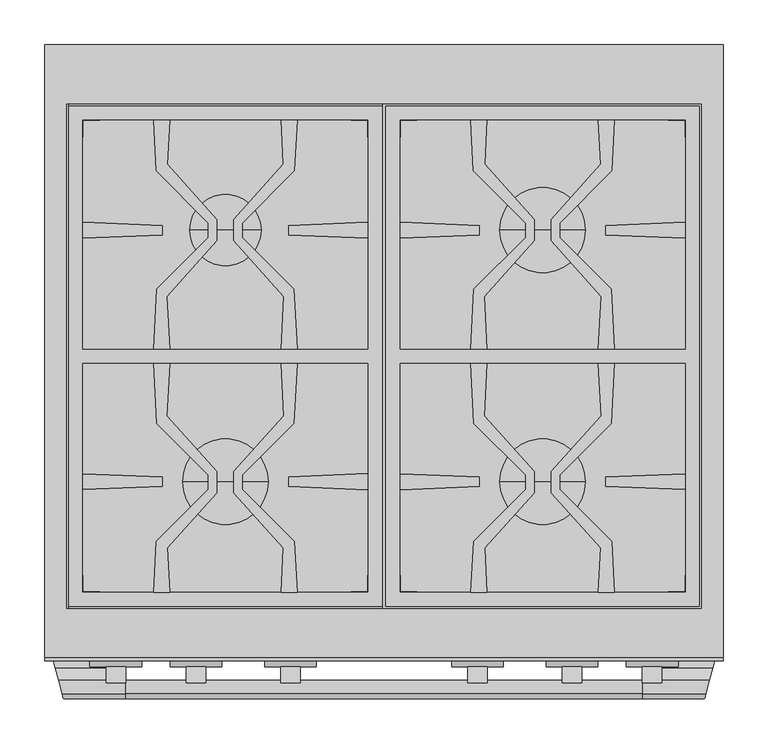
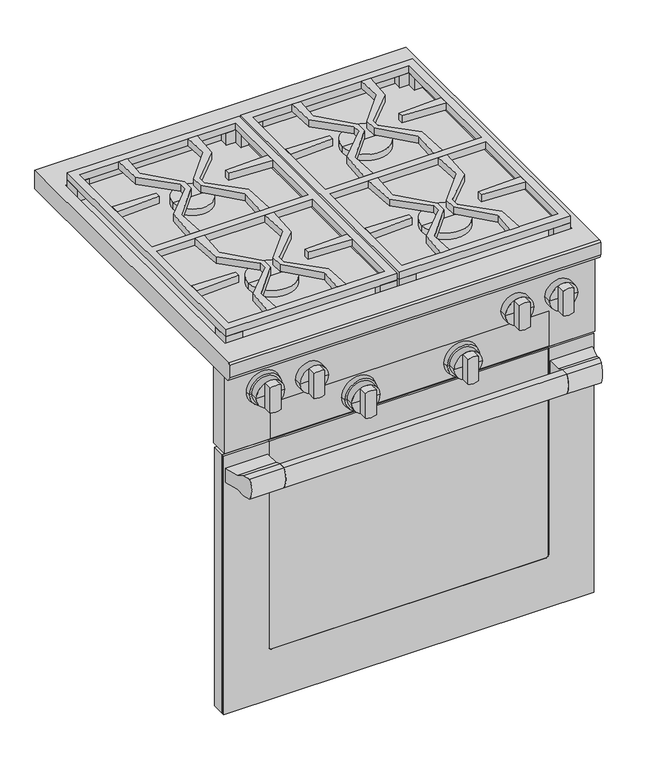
"""IFC4 building model written with IfcOpenShell, lengths in millimetres: proxy geometry, 09810020_USA_HR1124G_EDST-CLST : 25112451_USA_9810020_HR1124G_EDST-CLST."""

from ifc_helpers import new_model, si_unit, point, frame, frame_2d, origin, place, context, project, spatial, polyline, circle_curve, ellipse_curve, trimmed, segment, composite_curve, outline, extrude, faceted_brep, source, transform, mapped, element, save
from ifc_brep_helpers import plane_surface, cylinder_surface, revolved_surface, advanced_brep


def specialty_equipment_d9d770ca(model_context):
    return source(origin(), model_context, "Body", "SolidModel", [
        extrude(outline(composite_curve([segment(polyline([(-729.0, 667.0), (-714.0, 667.0), (-714.0, 624.0), (-729.0, 624.0)]), True, "CONTINUOUS"), segment(trimmed(circle_curve(frame_2d((-693.4791667, 645.5)), 41.5208333), [point((-729.0, 624.0))], [point((-729.0, 667.0))], False, "CARTESIAN"), True, "CONTINUOUS")], self_intersect=False)), frame((-290.0, 0.0, 0.0), z_axis=(1.0, 0.0, 0.0), x_axis=(0.0, 1.0, 0.0)), (0.0, 0.0, 1.0), 580.0),
        extrude(outline(polyline([(-380.0, -638.0), (380.0, -638.0), (380.0, -664.7), (-380.0, -664.7), (-380.0, -638.0)])), frame((0.0, 0.0, 127.0), z_axis=(0.0, 0.0, 1.0), x_axis=(1.0, 0.0, 0.0)), (0.0, 0.0, 1.0), 561.0),
        extrude(outline(polyline([(-379.0, -664.7), (379.0, -664.7), (379.0, -668.7), (-379.0, -668.7), (-379.0, -664.7)])), frame((0.0, 0.0, 128.0), z_axis=(0.0, 0.0, 1.0), x_axis=(1.0, 0.0, 0.0)), (0.0, 0.0, 1.0), 559.0),
        advanced_brep(
        [(287.0, -664.7, 688.0), (380.0, -664.7, 688.0), (380.0, -664.7, 127.0), (-380.0, -664.7, 127.0), (-380.0, -664.7, 688.0), (-287.0, -664.7, 688.0), (-287.0, -664.7, 687.0), (-379.0, -664.7, 687.0), (-379.0, -664.7, 128.0), (379.0, -664.7, 128.0), (379.0, -664.7, 687.0), (287.0, -664.7, 687.0), (-287.0, -670.0, 688.0), (-380.0, -670.0, 688.0), (-380.0, -670.0, 127.0), (380.0, -670.0, 127.0), (380.0, -670.0, 688.0), (287.0, -670.0, 688.0), (287.0, -670.0, 241.0), (281.0, -670.0, 235.0), (-281.0, -670.0, 235.0), (-287.0, -670.0, 241.0), (-287.0, -668.7, 241.0), (-287.0, -668.7, 687.0), (281.0, -668.7, 235.0), (-281.0, -668.7, 235.0), (287.0, -668.7, 687.0), (287.0, -668.7, 241.0), (379.0, -668.7, 687.0), (379.0, -668.7, 128.0), (-379.0, -668.7, 128.0), (-379.0, -668.7, 687.0)],
        [
            (0, 1),
            (1, 2),
            (2, 3),
            (3, 4),
            (4, 5),
            (5, 6),
            (6, 7),
            (7, 8),
            (8, 9),
            (9, 10),
            (10, 11),
            (11, 0),
            (12, 13),
            (13, 14),
            (14, 15),
            (15, 16),
            (16, 17),
            (17, 18),
            (18, 19, circle_curve(frame((281.0, -670.0, 241.0), z_axis=(0.0, 1.0, 0.0), x_axis=(-1.0, 0.0, 0.0)), 6.0)),
            (19, 20),
            (20, 21, circle_curve(frame((-281.0, -670.0, 241.0), z_axis=(0.0, 1.0, 0.0), x_axis=(-1.0, 0.0, 0.0)), 6.0)),
            (21, 12),
            (21, 22),
            (22, 23),
            (23, 6),
            (5, 12),
            (19, 24),
            (24, 25),
            (25, 20),
            (17, 0),
            (11, 26),
            (26, 27),
            (27, 18),
            (16, 1),
            (15, 2),
            (14, 3),
            (13, 4),
            (25, 22, circle_curve(frame((-281.0, -668.7, 241.0), z_axis=(0.0, 1.0, 0.0), x_axis=(-1.0, 0.0, 0.0)), 6.0)),
            (27, 24, circle_curve(frame((281.0, -668.7, 241.0), z_axis=(0.0, 1.0, 0.0), x_axis=(-1.0, 0.0, 0.0)), 6.0)),
            (28, 29),
            (29, 30),
            (30, 31),
            (31, 23),
            (26, 28),
            (28, 10),
            (9, 29),
            (8, 30),
            (7, 31),
        ],
        [
            plane_surface(frame((-287.0, -664.7, 241.0), z_axis=(0.0, 1.0, 0.0), x_axis=(0.0, 0.0, -1.0))),
            plane_surface(frame((-287.0, -670.0, 241.0), z_axis=(0.0, -1.0, 0.0), x_axis=(0.0, 0.0, 1.0))),
            plane_surface(frame((-287.0, -664.7, 688.0), z_axis=(1.0, 0.0, 0.0), x_axis=(0.0, -1.0, 0.0))),
            plane_surface(frame((-281.0, -664.7, 235.0), z_axis=(0.0, 0.0, 1.0), x_axis=(0.0, -1.0, 0.0))),
            plane_surface(frame((287.0, -664.7, 241.0), z_axis=(-1.0, 0.0, 0.0), x_axis=(0.0, -1.0, 0.0))),
            plane_surface(frame((287.0, -664.7, 688.0), z_axis=(0.0, 0.0, 1.0), x_axis=(0.0, -1.0, 0.0))),
            plane_surface(frame((380.0, -664.7, 688.0), z_axis=(1.0, 0.0, 0.0), x_axis=(0.0, -1.0, 0.0))),
            plane_surface(frame((380.0, -664.7, 127.0), z_axis=(0.0, 0.0, -1.0), x_axis=(0.0, -1.0, 0.0))),
            plane_surface(frame((-380.0, -664.7, 127.0), z_axis=(-1.0, 0.0, 0.0), x_axis=(0.0, -1.0, 0.0))),
            plane_surface(frame((-380.0, -664.7, 688.0), z_axis=(0.0, 0.0, 1.0), x_axis=(0.0, -1.0, 0.0))),
            revolved_surface(polyline([(-287.0, -670.0, 241.0), (-287.0, -668.7, 241.0)]), (-281.0, -670.0, 241.0), (0.0, -1.0, 0.0)),
            revolved_surface(polyline([(275.0, -670.0, 241.0), (275.0, -668.7, 241.0)]), (281.0, -670.0, 241.0), (0.0, -1.0, 0.0)),
            plane_surface(frame((379.0, -668.7, 687.0), z_axis=(0.0, 1.0, 0.0), x_axis=(0.0, 0.0, 1.0))),
            plane_surface(frame((379.0, -664.7, 687.0), z_axis=(-1.0, 0.0, 0.0), x_axis=(0.0, -1.0, 0.0))),
            plane_surface(frame((379.0, -664.7, 128.0), z_axis=(0.0, 0.0, 1.0), x_axis=(0.0, -1.0, 0.0))),
            plane_surface(frame((-379.0, -664.7, 128.0), z_axis=(1.0, 0.0, 0.0), x_axis=(0.0, -1.0, 0.0))),
            plane_surface(frame((-379.0, -664.7, 687.0), z_axis=(0.0, 0.0, -1.0), x_axis=(0.0, -1.0, 0.0))),
        ],
        [
            (0, [[1, 2, 3, 4, 5, 6, 7, 8, 9, 10, 11, 12]]),
            (1, [[13, 14, 15, 16, 17, 18, 19, 20, 21, 22]]),
            (2, [[-22, 23, 24, 25, -6, 26]]),
            (3, [[-20, 27, 28, 29]]),
            (4, [[-18, 30, -12, 31, 32, 33]]),
            (5, [[-1, -30, -17, 34]]),
            (6, [[-2, -34, -16, 35]]),
            (7, [[-3, -35, -15, 36]]),
            (8, [[-4, -36, -14, 37]]),
            (9, [[-5, -37, -13, -26]]),
            (10, [[-21, -29, 38, -23]]),
            (11, [[-19, -33, 39, -27]]),
            (12, [[40, 41, 42, 43, -24, -38, -28, -39, -32, 44]]),
            (13, [[-40, 45, -10, 46]]),
            (14, [[-41, -46, -9, 47]]),
            (15, [[-42, -47, -8, 48]]),
            (16, [[-45, -44, -31, -11]]),
            (16, [[-48, -7, -25, -43]]),
        ],
    ),
        extrude(outline(polyline([(-351.0, -617.0), (351.0, -617.0), (351.0, -638.0), (-351.0, -638.0), (-351.0, -617.0)])), frame((0.0, 0.0, 133.0), z_axis=(0.0, 0.0, 1.0), x_axis=(1.0, 0.0, 0.0)), (0.0, 0.0, 1.0), 550.0),
        advanced_brep(
        [(-290.0, -700.0, 630.0), (-290.0, -670.0, 630.0), (-290.0, -670.0, 661.0), (-290.0, -700.0, 661.0), (-290.0, -714.0, 667.0), (-290.0, -729.0, 667.0), (-290.0, -729.0, 624.0), (-290.0, -714.0, 624.0), (-368.9615242, -700.0, 630.0), (-377.0, -670.0, 630.0), (-377.0, -670.0, 661.0), (-368.9615242, -700.0, 661.0), (-365.2102355, -714.0, 667.0), (-361.1909976, -729.0, 667.0), (-361.1909976, -729.0, 624.0), (-365.2102355, -714.0, 624.0)],
        [
            (0, 1),
            (1, 2),
            (2, 3),
            (3, 4),
            (4, 5),
            (5, 6, circle_curve(frame((-290.0, -693.4791667, 645.5), z_axis=(1.0, 0.0, 0.0), x_axis=(0.0, 0.0, 1.0)), 41.5208333)),
            (6, 7),
            (7, 0),
            (0, 8),
            (8, 9),
            (9, 1),
            (9, 10),
            (10, 2),
            (10, 11),
            (11, 3),
            (4, 12),
            (12, 13),
            (13, 5),
            (13, 14, ellipse_curve(frame((-370.7087763, -693.4791667, 645.5), z_axis=(0.9659258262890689, 0.258819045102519, 0.0), x_axis=(0.2588190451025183, -0.9659258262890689, 0.0)), 42.9855297, 41.5208333)),
            (14, 6),
            (14, 15),
            (15, 7),
            (8, 15),
            (12, 11),
        ],
        [
            plane_surface(frame((-290.0, -670.0, 630.0), z_axis=(1.0, 0.0, 0.0), x_axis=(0.0, 1.0, 0.0))),
            plane_surface(frame((-290.0, -700.0, 630.0), z_axis=(0.0, 0.0, -1.0), x_axis=(-1.0, 0.0, 0.0))),
            plane_surface(frame((-290.0, -670.0, 630.0), z_axis=(0.0, 1.0, 0.0), x_axis=(-1.0, 0.0, 0.0))),
            plane_surface(frame((-290.0, -670.0, 661.0), z_axis=(0.0, 0.0, 1.0), x_axis=(-1.0, 0.0, 0.0))),
            plane_surface(frame((-290.0, -714.0, 667.0), z_axis=(0.0, 0.0, 1.0), x_axis=(-1.0, 0.0, 0.0))),
            cylinder_surface(frame((-377.0, -693.4791667, 645.5), z_axis=(1.0, 0.0, 0.0), x_axis=(0.0, 0.0, 1.0)), 41.5208333),
            plane_surface(frame((-290.0, -729.0, 624.0), z_axis=(0.0, 0.0, -1.0), x_axis=(-1.0, 0.0, 0.0))),
            plane_surface(frame((-354.5578883, -753.7551012, 668.5), z_axis=(-0.9659258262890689, -0.258819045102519, 0.0), x_axis=(0.0, 0.0, -1.0))),
            plane_surface(frame((-290.0, -700.0, 661.0), z_axis=(0.0, 0.39391929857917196, 0.919145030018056), x_axis=(-1.0, 0.0, 0.0))),
            plane_surface(frame((-290.0, -714.0, 624.0), z_axis=(0.0, 0.39391929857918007, -0.9191450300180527), x_axis=(-1.0, 0.0, 0.0))),
        ],
        [
            (0, [[1, 2, 3, 4, 5, 6, 7, 8]]),
            (1, [[-1, 9, 10, 11]]),
            (2, [[-2, -11, 12, 13]]),
            (3, [[-3, -13, 14, 15]]),
            (4, [[-5, 16, 17, 18]]),
            (5, [[-6, -18, 19, 20]]),
            (6, [[-7, -20, 21, 22]]),
            (7, [[-10, 23, -21, -19, -17, 24, -14, -12]]),
            (8, [[-4, -15, -24, -16]]),
            (9, [[-8, -22, -23, -9]]),
        ],
    ),
        advanced_brep(
        [(290.0, -700.0, 661.0), (290.0, -670.0, 661.0), (290.0, -670.0, 630.0), (290.0, -700.0, 630.0), (290.0, -714.0, 624.0), (290.0, -729.0, 624.0), (290.0, -729.0, 667.0), (290.0, -714.0, 667.0), (361.1909976, -729.0, 667.0), (365.2102355, -714.0, 667.0), (361.1909976, -729.0, 624.0), (365.2102355, -714.0, 624.0), (377.0, -670.0, 630.0), (368.9615242, -700.0, 630.0), (377.0, -670.0, 661.0), (368.9615242, -700.0, 661.0)],
        [
            (0, 1),
            (1, 2),
            (2, 3),
            (3, 4),
            (4, 5),
            (5, 6, circle_curve(frame((290.0, -693.4791667, 645.5), z_axis=(-1.0, 0.0, 0.0), x_axis=(0.0, 0.0, 1.0)), 41.5208333)),
            (6, 7),
            (7, 0),
            (6, 8),
            (8, 9),
            (9, 7),
            (5, 10),
            (10, 8, ellipse_curve(frame((370.7087763, -693.4791667, 645.5), z_axis=(-0.9659258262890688, 0.258819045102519, 0.0), x_axis=(0.2588190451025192, 0.9659258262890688, 0.0)), 42.9855297, 41.5208333)),
            (4, 11),
            (11, 10),
            (2, 12),
            (12, 13),
            (13, 3),
            (1, 14),
            (14, 12),
            (0, 15),
            (15, 14),
            (11, 13),
            (15, 9),
        ],
        [
            plane_surface(frame((290.0, -714.0, 667.0), z_axis=(-1.0000000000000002, 0.0, 0.0), x_axis=(0.0, 0.9191450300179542, -0.3939192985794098))),
            plane_surface(frame((377.0, -714.0, 667.0), z_axis=(0.0, 0.0, 1.0), x_axis=(-1.0, 0.0, 0.0))),
            cylinder_surface(frame((290.0, -693.4791667, 645.5), z_axis=(1.0, 0.0, 0.0), x_axis=(0.0, 0.0, 1.0)), 41.5208333),
            plane_surface(frame((377.0, -729.0, 624.0), z_axis=(0.0, 0.0, -1.0), x_axis=(-1.0, 0.0, 0.0))),
            plane_surface(frame((377.0, -700.0, 630.0), z_axis=(0.0, 0.0, -1.0), x_axis=(-1.0, 0.0, 0.0))),
            plane_surface(frame((377.0, -670.0, 630.0), z_axis=(0.0, 1.0, 0.0), x_axis=(-1.0, 0.0, 0.0))),
            plane_surface(frame((377.0, -670.0, 661.0), z_axis=(0.0, 0.0, 1.0), x_axis=(-1.0, 0.0, 0.0))),
            plane_surface(frame((377.0, -670.0, 668.5), z_axis=(0.9659258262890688, -0.258819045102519, 0.0), x_axis=(0.0, 0.0, -1.0))),
            plane_surface(frame((377.0, -700.0, 661.0), z_axis=(0.0, 0.3939192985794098, 0.9191450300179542), x_axis=(-1.0, 0.0, 0.0))),
            plane_surface(frame((377.0, -714.0, 624.0), z_axis=(0.0, 0.3939192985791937, -0.9191450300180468), x_axis=(-1.0, 0.0, 0.0))),
        ],
        [
            (0, [[1, 2, 3, 4, 5, 6, 7, 8]]),
            (1, [[-7, 9, 10, 11]]),
            (2, [[-6, 12, 13, -9]]),
            (3, [[-5, 14, 15, -12]]),
            (4, [[-3, 16, 17, 18]]),
            (5, [[-2, 19, 20, -16]]),
            (6, [[-1, 21, 22, -19]]),
            (7, [[-10, -13, -15, 23, -17, -20, -22, 24]]),
            (8, [[-8, -11, -24, -21]]),
            (9, [[-4, -18, -23, -14]]),
        ],
    ),
        extrude(outline(polyline([(97.4177304, -358.0273828), (115.4174107, -358.0273828), (112.3474419, -416.9894265), (168.4590566, -479.568392), (168.4590566, -503.4471434), (112.8930533, -565.5024535), (115.5051055, -615.0212482), (97.5054252, -615.0212482), (100.4706458, -558.0710081), (158.8494553, -499.6921986), (158.8494553, -483.3657133), (100.9764383, -425.4926963), (97.4177304, -358.0273828)])), frame((0.0, 0.0, 914.0), z_axis=(0.0, 0.0, 1.0), x_axis=(1.0, 0.0, 0.0)), (0.0, 0.0, 1.0), 15.0),
        extrude(outline(polyline([(243.5666917, -416.9448139), (240.4588735, -358.0273828), (258.4534566, -358.0273828), (254.9434746, -425.4403498), (197.0712231, -483.3126013), (197.0712231, -499.6295194), (255.5438392, -558.1021355), (258.5462487, -615.0212482), (240.541471, -615.0212482), (243.1220648, -565.4581775), (187.4590702, -503.3795395), (187.4590702, -479.6049953), (243.5666917, -416.9448139)])), frame((0.0, 0.0, 914.0), z_axis=(0.0, 0.0, 1.0), x_axis=(1.0, 0.0, 0.0)), (0.0, 0.0, 1.0), 15.0),
        extrude(outline(polyline([(-258.5822696, -358.0273828), (-240.5825893, -358.0273828), (-243.6525581, -416.9894265), (-187.5409434, -479.568392), (-187.5409434, -503.4471434), (-243.1069467, -565.5024535), (-240.4948945, -615.0212482), (-258.4945748, -615.0212482), (-255.5293542, -558.0710081), (-197.1505447, -499.6921986), (-197.1505447, -483.3657133), (-255.0235617, -425.4926963), (-258.5822696, -358.0273828)])), frame((0.0, 0.0, 914.0), z_axis=(0.0, 0.0, 1.0), x_axis=(1.0, 0.0, 0.0)), (0.0, 0.0, 1.0), 15.0),
        extrude(outline(polyline([(-115.5411265, -358.0273828), (-97.5465434, -358.0273828), (-101.0565254, -425.4403498), (-158.9287769, -483.3126013), (-158.9287769, -499.6295194), (-100.4561608, -558.1021355), (-97.4537513, -615.0212482), (-115.458529, -615.0212482), (-112.8779352, -565.4581775), (-168.5409298, -503.3795395), (-168.5409298, -479.6049953), (-112.4333083, -416.9448139), (-115.5411265, -358.0273828)])), frame((0.0, 0.0, 914.0), z_axis=(0.0, 0.0, 1.0), x_axis=(1.0, 0.0, 0.0)), (0.0, 0.0, 1.0), 15.0),
        extrude(outline(polyline([(-258.5385862, -85.0), (-240.5385862, -85.0), (-243.1338026, -134.5196799), (-187.5, -196.6082182), (-187.5, -220.3917818), (-243.6289218, -283.0328838), (-240.5385862, -342.0), (-258.5385862, -342.0), (-255.0028157, -274.5334805), (-197.1108918, -216.6415566), (-197.1108918, -200.3584434), (-255.5558783, -141.9134569), (-258.5385862, -85.0)])), frame((0.0, 0.0, 914.0), z_axis=(0.0, 0.0, 1.0), x_axis=(1.0, 0.0, 0.0)), (0.0, 0.0, 1.0), 15.0),
        extrude(outline(polyline([(-115.5, -85.0), (-97.5, -85.0), (-100.4827079, -141.9134569), (-158.8891082, -200.3198573), (-158.8891082, -216.6801428), (-101.0357705, -274.5334805), (-97.5, -342.0), (-115.5, -342.0), (-112.4096644, -283.0328839), (-168.5, -220.4348449), (-168.5, -196.5651551), (-112.9047835, -134.5196799), (-115.5, -85.0)])), frame((0.0, 0.0, 914.0), z_axis=(0.0, 0.0, 1.0), x_axis=(1.0, 0.0, 0.0)), (0.0, 0.0, 1.0), 15.0),
        extrude(outline(polyline([(115.4614138, -85.0), (112.8661974, -134.5196799), (168.5, -196.6082182), (168.5, -220.3917818), (112.3710782, -283.0328838), (115.4614138, -342.0), (97.4614138, -342.0), (100.9971843, -274.5334805), (158.8891082, -216.6415566), (158.8891082, -200.3584434), (100.4441217, -141.9134569), (97.4614138, -85.0), (115.4614138, -85.0)])), frame((0.0, 0.0, 914.0), z_axis=(0.0, 0.0, 1.0), x_axis=(1.0, 0.0, 0.0)), (0.0, 0.0, 1.0), 15.0),
        extrude(outline(polyline([(243.0952165, -134.5196799), (240.5, -85.0), (258.5, -85.0), (255.5172921, -141.9134569), (197.1108918, -200.3198573), (197.1108918, -216.6801428), (254.9642295, -274.5334805), (258.5, -342.0), (240.5, -342.0), (243.5903356, -283.0328839), (187.5, -220.4348449), (187.5, -196.5651551), (243.0952165, -134.5196799)])), frame((0.0, 0.0, 914.0), z_axis=(0.0, 0.0, 1.0), x_axis=(1.0, 0.0, 0.0)), (0.0, 0.0, 1.0), 15.0),
        extrude(outline(polyline([(354.0, -69.0), (354.0, -631.0), (2.0, -631.0), (2.0, -69.0), (354.0, -69.0)])), frame((0.0, 0.0, 870.0), z_axis=(0.0, 0.0, 1.0), x_axis=(1.0, 0.0, 0.0)), (0.0, 0.0, 1.0), 17.0),
        extrude(outline(polyline([(-2.0, -67.0), (-2.0, -633.0), (-354.0, -633.0), (-354.0, -67.0), (-2.0, -67.0)])), frame((0.0, 0.0, 870.0), z_axis=(0.0, 0.0, 1.0), x_axis=(1.0, 0.0, 0.0)), (0.0, 0.0, 1.0), 17.0),
        extrude(outline(polyline([(-249.0, -213.7921261), (-338.0, -217.4578849), (-338.0, -199.5421151), (-249.0, -203.2078739), (-249.0, -213.7921261)])), frame((0.0, 0.0, 914.0), z_axis=(0.0, 0.0, 1.0), x_axis=(1.0, 0.0, 0.0)), (0.0, 0.0, 1.0), 15.0),
        extrude(outline(polyline([(-18.0, -199.5029948), (-18.0, -217.4970052), (-107.0, -213.7790477), (-107.0, -203.2209523), (-18.0, -199.5029948)])), frame((0.0, 0.0, 914.0), z_axis=(0.0, 0.0, 1.0), x_axis=(1.0, 0.0, 0.0)), (0.0, 0.0, 1.0), 15.0),
        extrude(outline(polyline([(-249.0, -496.2921261), (-338.0, -499.9578849), (-338.0, -482.0421151), (-249.0, -485.7078739), (-249.0, -496.2921261)])), frame((0.0, 0.0, 914.0), z_axis=(0.0, 0.0, 1.0), x_axis=(1.0, 0.0, 0.0)), (0.0, 0.0, 1.0), 15.0),
        extrude(outline(polyline([(-18.0, -482.0029948), (-18.0, -499.9970052), (-107.0, -496.2790477), (-107.0, -485.7209523), (-18.0, -482.0029948)])), frame((0.0, 0.0, 914.0), z_axis=(0.0, 0.0, 1.0), x_axis=(1.0, 0.0, 0.0)), (0.0, 0.0, 1.0), 15.0),
        extrude(outline(polyline([(-2.0, -631.0), (-37.0, -631.0), (-37.0, -615.0), (-18.0, -615.0), (-18.0, -596.0), (-2.0, -596.0), (-2.0, -631.0)])), frame((0.0, 0.0, 887.0), z_axis=(0.0, 0.0, 1.0), x_axis=(1.0, 0.0, 0.0)), (0.0, 0.0, 1.0), 27.0),
        extrude(outline(polyline([(-354.0, -631.0), (-354.0, -596.0), (-338.0, -596.0), (-338.0, -615.0), (-319.0, -615.0), (-319.0, -631.0), (-354.0, -631.0)])), frame((0.0, 0.0, 887.0), z_axis=(0.0, 0.0, 1.0), x_axis=(1.0, 0.0, 0.0)), (0.0, 0.0, 1.0), 27.0),
        extrude(outline(polyline([(-2.0, -69.0), (-2.0, -104.0), (-18.0, -104.0), (-18.0, -85.0), (-37.0, -85.0), (-37.0, -69.0), (-2.0, -69.0)])), frame((0.0, 0.0, 887.0), z_axis=(0.0, 0.0, 1.0), x_axis=(1.0, 0.0, 0.0)), (0.0, 0.0, 1.0), 27.0),
        extrude(outline(polyline([(-354.0, -69.0), (-319.0, -69.0), (-319.0, -85.0), (-338.0, -85.0), (-338.0, -104.0), (-354.0, -104.0), (-354.0, -69.0)])), frame((0.0, 0.0, 887.0), z_axis=(0.0, 0.0, 1.0), x_axis=(1.0, 0.0, 0.0)), (0.0, 0.0, 1.0), 27.0),
        extrude(outline(polyline([(18.0337834, -499.9810574), (18.0337834, -482.0189426), (107.0337834, -485.7078739), (107.0337834, -496.2921261), (18.0337834, -499.9810574)])), frame((0.0, 0.0, 914.0), z_axis=(0.0, 0.0, 1.0), x_axis=(1.0, 0.0, 0.0)), (0.0, 0.0, 1.0), 15.0),
        extrude(outline(polyline([(338.0337834, -482.0262039), (338.0337834, -499.9737961), (249.0337834, -496.2790477), (249.0337834, -485.7209523), (338.0337834, -482.0262039)])), frame((0.0, 0.0, 914.0), z_axis=(0.0, 0.0, 1.0), x_axis=(1.0, 0.0, 0.0)), (0.0, 0.0, 1.0), 15.0),
        extrude(outline(polyline([(18.0337834, -217.4810574), (18.0337834, -199.5189426), (107.0337834, -203.2078739), (107.0337834, -213.7921261), (18.0337834, -217.4810574)])), frame((0.0, 0.0, 914.0), z_axis=(0.0, 0.0, 1.0), x_axis=(1.0, 0.0, 0.0)), (0.0, 0.0, 1.0), 15.0),
        extrude(outline(polyline([(338.0337834, -199.5262039), (338.0337834, -217.4737961), (249.0337834, -213.7790477), (249.0337834, -203.2209523), (338.0337834, -199.5262039)])), frame((0.0, 0.0, 914.0), z_axis=(0.0, 0.0, 1.0), x_axis=(1.0, 0.0, 0.0)), (0.0, 0.0, 1.0), 15.0),
        extrude(outline(polyline([(-2.0, -69.0), (-2.0, -631.0), (-354.0, -631.0), (-354.0, -69.0), (-2.0, -69.0)]), holes=[polyline([(-18.0, -85.0), (-338.0, -85.0), (-338.0, -342.0), (-18.0, -342.0), (-18.0, -85.0)]), polyline([(-338.0, -358.0), (-338.0, -615.0), (-18.0, -615.0), (-18.0, -358.0), (-338.0, -358.0)])]), frame((0.0, 0.0, 914.0), z_axis=(0.0, 0.0, 1.0), x_axis=(1.0, 0.0, 0.0)), (0.0, 0.0, 1.0), 15.0),
        extrude(outline(polyline([(354.0, -69.0), (354.0, -631.0), (2.0, -631.0), (2.0, -69.0), (354.0, -69.0)]), holes=[polyline([(338.0337834, -85.0), (18.0337834, -85.0), (18.0337834, -342.0), (338.0337834, -342.0), (338.0337834, -85.0)]), polyline([(18.0337834, -358.0), (18.0337834, -615.0), (338.0337834, -615.0), (338.0337834, -358.0), (18.0337834, -358.0)])]), frame((0.0, 0.0, 914.0), z_axis=(0.0, 0.0, 1.0), x_axis=(1.0, 0.0, 0.0)), (0.0, 0.0, 1.0), 15.0),
        extrude(outline(polyline([(354.0, -631.0), (319.0, -631.0), (319.0, -615.0), (338.0337834, -615.0), (338.0337834, -596.0), (354.0, -596.0), (354.0, -631.0)])), frame((0.0, 0.0, 887.0), z_axis=(0.0, 0.0, 1.0), x_axis=(1.0, 0.0, 0.0)), (0.0, 0.0, 1.0), 27.0),
        extrude(outline(polyline([(2.0, -631.0), (2.0, -596.0), (18.0337834, -596.0), (18.0337834, -615.0), (37.0, -615.0), (37.0, -631.0), (2.0, -631.0)])), frame((0.0, 0.0, 887.0), z_axis=(0.0, 0.0, 1.0), x_axis=(1.0, 0.0, 0.0)), (0.0, 0.0, 1.0), 27.0),
        extrude(outline(polyline([(354.0, -69.0), (354.0, -104.0), (338.0337834, -104.0), (338.0337834, -85.0), (319.0, -85.0), (319.0, -69.0), (354.0, -69.0)])), frame((0.0, 0.0, 887.0), z_axis=(0.0, 0.0, 1.0), x_axis=(1.0, 0.0, 0.0)), (0.0, 0.0, 1.0), 27.0),
        extrude(outline(polyline([(2.0, -69.0), (37.0, -69.0), (37.0, -85.0), (18.0337834, -85.0), (18.0337834, -104.0), (2.0, -104.0), (2.0, -69.0)])), frame((0.0, 0.0, 887.0), z_axis=(0.0, 0.0, 1.0), x_axis=(1.0, 0.0, 0.0)), (0.0, 0.0, 1.0), 27.0),
        advanced_brep(
        [(130.0, -208.5, 887.0), (226.0, -208.5, 887.0), (226.0, -208.5, 901.0), (130.0, -208.5, 901.0), (178.0, -208.5, 887.0), (178.0, -208.5, 901.0)],
        [
            (0, 1, circle_curve(frame((178.0, -208.5, 887.0), z_axis=(0.0, 0.0, 1.0), x_axis=(1.0, 0.0, 0.0)), 48.0)),
            (1, 2),
            (2, 3, circle_curve(frame((178.0, -208.5, 901.0), z_axis=(0.0, 0.0, -1.0), x_axis=(1.0, 0.0, 0.0)), 48.0)),
            (3, 0),
            (1, 0, circle_curve(frame((178.0, -208.5, 887.0), z_axis=(0.0, 0.0, 1.0), x_axis=(1.0, 0.0, 0.0)), 48.0)),
            (3, 2, circle_curve(frame((178.0, -208.5, 901.0), z_axis=(0.0, 0.0, -1.0), x_axis=(1.0, 0.0, 0.0)), 48.0)),
            (4, 1),
            (0, 4),
            (2, 5),
            (5, 3),
        ],
        [
            cylinder_surface(frame((178.0, -208.5, 2338.4), z_axis=(0.0, 0.0, -1.0), x_axis=(1.0, 0.0, 0.0)), 48.0),
            plane_surface(frame((178.0, -208.5, 887.0), z_axis=(0.0, 0.0, -1.0), x_axis=(1.0, 0.0, 0.0))),
            plane_surface(frame((178.0, -208.5, 901.0), z_axis=(0.0, 0.0, 1.0), x_axis=(1.0, 0.0, 0.0))),
        ],
        [
            (0, [[1, 2, 3, 4]]),
            (0, [[5, -4, 6, -2]]),
            (1, [[7, -1, 8]]),
            (1, [[-8, -5, -7]]),
            (2, [[-3, 9, 10]]),
            (2, [[-6, -10, -9]]),
        ],
    ),
        advanced_brep(
        [(-178.0, -208.5, 887.0), (-138.0, -208.5, 887.0), (-218.0, -208.5, 887.0), (-218.0, -208.5, 901.0), (-138.0, -208.5, 901.0), (-178.0, -208.5, 901.0)],
        [
            (0, 1),
            (1, 2, circle_curve(frame((-178.0, -208.5, 887.0), z_axis=(0.0, 0.0, -1.0), x_axis=(1.0, 0.0, 0.0)), 40.0)),
            (2, 0),
            (2, 1, circle_curve(frame((-178.0, -208.5, 887.0), z_axis=(0.0, 0.0, -1.0), x_axis=(1.0, 0.0, 0.0)), 40.0)),
            (3, 4, circle_curve(frame((-178.0, -208.5, 901.0), z_axis=(0.0, 0.0, 1.0), x_axis=(1.0, 0.0, 0.0)), 40.0)),
            (4, 5),
            (5, 3),
            (4, 3, circle_curve(frame((-178.0, -208.5, 901.0), z_axis=(0.0, 0.0, 1.0), x_axis=(1.0, 0.0, 0.0)), 40.0)),
            (1, 4),
            (3, 2),
        ],
        [
            plane_surface(frame((-178.0, -208.5, 887.0), z_axis=(0.0, 0.0, -1.0), x_axis=(1.0, 0.0, 0.0))),
            plane_surface(frame((-178.0, -208.5, 901.0), z_axis=(0.0, 0.0, 1.0), x_axis=(1.0, 0.0, 0.0))),
            cylinder_surface(frame((-178.0, -208.5, 2424.4), z_axis=(0.0, 0.0, -1.0), x_axis=(1.0, 0.0, 0.0)), 40.0),
        ],
        [
            (0, [[1, 2, 3]]),
            (0, [[-3, 4, -1]]),
            (1, [[5, 6, 7]]),
            (1, [[8, -7, -6]]),
            (2, [[-2, 9, -5, 10]]),
            (2, [[-4, -10, -8, -9]]),
        ],
    ),
        advanced_brep(
        [(-226.0, -491.0, 887.0), (-130.0, -491.0, 887.0), (-130.0, -491.0, 901.0), (-226.0, -491.0, 901.0), (-178.0, -491.0, 887.0), (-178.0, -491.0, 901.0)],
        [
            (0, 1, circle_curve(frame((-178.0, -491.0, 887.0), z_axis=(0.0, 0.0, 1.0), x_axis=(1.0, 0.0, 0.0)), 48.0)),
            (1, 2),
            (2, 3, circle_curve(frame((-178.0, -491.0, 901.0), z_axis=(0.0, 0.0, -1.0), x_axis=(1.0, 0.0, 0.0)), 48.0)),
            (3, 0),
            (1, 0, circle_curve(frame((-178.0, -491.0, 887.0), z_axis=(0.0, 0.0, 1.0), x_axis=(1.0, 0.0, 0.0)), 48.0)),
            (3, 2, circle_curve(frame((-178.0, -491.0, 901.0), z_axis=(0.0, 0.0, -1.0), x_axis=(1.0, 0.0, 0.0)), 48.0)),
            (4, 1),
            (0, 4),
            (2, 5),
            (5, 3),
        ],
        [
            cylinder_surface(frame((-178.0, -491.0, 2424.4), z_axis=(0.0, 0.0, -1.0), x_axis=(1.0, 0.0, 0.0)), 48.0),
            plane_surface(frame((-178.0, -491.0, 887.0), z_axis=(0.0, 0.0, -1.0), x_axis=(1.0, 0.0, 0.0))),
            plane_surface(frame((-178.0, -491.0, 901.0), z_axis=(0.0, 0.0, 1.0), x_axis=(1.0, 0.0, 0.0))),
        ],
        [
            (0, [[1, 2, 3, 4]]),
            (0, [[5, -4, 6, -2]]),
            (1, [[7, -1, 8]]),
            (1, [[-8, -5, -7]]),
            (2, [[-3, 9, 10]]),
            (2, [[-6, -10, -9]]),
        ],
    ),
        advanced_brep(
        [(130.0, -491.0, 887.0), (226.0, -491.0, 887.0), (226.0, -491.0, 901.0), (130.0, -491.0, 901.0), (178.0, -491.0, 887.0), (178.0, -491.0, 901.0)],
        [
            (0, 1, circle_curve(frame((178.0, -491.0, 887.0), z_axis=(0.0, 0.0, 1.0), x_axis=(1.0, 0.0, 0.0)), 48.0)),
            (1, 2),
            (2, 3, circle_curve(frame((178.0, -491.0, 901.0), z_axis=(0.0, 0.0, -1.0), x_axis=(1.0, 0.0, 0.0)), 48.0)),
            (3, 0),
            (1, 0, circle_curve(frame((178.0, -491.0, 887.0), z_axis=(0.0, 0.0, 1.0), x_axis=(1.0, 0.0, 0.0)), 48.0)),
            (3, 2, circle_curve(frame((178.0, -491.0, 901.0), z_axis=(0.0, 0.0, -1.0), x_axis=(1.0, 0.0, 0.0)), 48.0)),
            (4, 1),
            (0, 4),
            (2, 5),
            (5, 3),
        ],
        [
            cylinder_surface(frame((178.0, -491.0, 2424.4), z_axis=(0.0, 0.0, -1.0), x_axis=(1.0, 0.0, 0.0)), 48.0),
            plane_surface(frame((178.0, -491.0, 887.0), z_axis=(0.0, 0.0, -1.0), x_axis=(1.0, 0.0, 0.0))),
            plane_surface(frame((178.0, -491.0, 901.0), z_axis=(0.0, 0.0, 1.0), x_axis=(1.0, 0.0, 0.0))),
        ],
        [
            (0, [[1, 2, 3, 4]]),
            (0, [[5, -4, 6, -2]]),
            (1, [[7, -1, 8]]),
            (1, [[-8, -5, -7]]),
            (2, [[-3, 9, 10]]),
            (2, [[-6, -10, -9]]),
        ],
    ),
        advanced_brep(
        [(381.0, 0.0, 902.0), (381.0, -688.3499547, 902.0), (381.0, -692.0, 898.3499547), (381.0, -692.0, 872.0), (381.0, -682.0, 862.0), (381.0, 0.0, 862.0), (-381.0, 0.0, 902.0), (-381.0, 0.0, 862.0), (-381.0, -682.0, 862.0), (-381.0, -692.0, 872.0), (-381.0, -692.0, 898.3499547), (-381.0, -688.3499547, 902.0), (-356.0, -67.0, 902.0), (356.0, -67.0, 902.0), (356.0, -633.0, 902.0), (-356.0, -633.0, 902.0), (356.0, -67.0, 870.0), (-356.0, -67.0, 870.0), (-356.0, -633.0, 870.0), (356.0, -633.0, 870.0)],
        [
            (0, 1),
            (1, 2, circle_curve(frame((381.0, -688.0, 898.0), z_axis=(1.0, 0.0, 0.0), x_axis=(0.0, 0.0, 1.0)), 4.0152794)),
            (2, 3),
            (3, 4, circle_curve(frame((381.0, -682.0, 872.0), z_axis=(1.0, 0.0, 0.0), x_axis=(0.0, 0.0, 1.0)), 10.0)),
            (4, 5),
            (5, 0),
            (6, 7),
            (7, 8),
            (8, 9, circle_curve(frame((-381.0, -682.0, 872.0), z_axis=(-1.0, 0.0, 0.0), x_axis=(0.0, 0.0, 1.0)), 10.0)),
            (9, 10),
            (10, 11, circle_curve(frame((-381.0, -688.0, 898.0), z_axis=(-1.0, 0.0, 0.0), x_axis=(0.0, 0.0, 1.0)), 4.0152794)),
            (11, 6),
            (0, 6),
            (11, 1),
            (12, 13),
            (13, 14),
            (14, 15),
            (15, 12),
            (10, 2),
            (9, 3),
            (8, 4),
            (7, 5),
            (16, 17),
            (17, 18),
            (18, 19),
            (19, 16),
            (16, 13),
            (12, 17),
            (15, 18),
            (14, 19),
        ],
        [
            plane_surface(frame((381.0, -688.3499547, 902.0), z_axis=(1.0, 0.0, 0.0), x_axis=(0.0, -1.0, 0.0))),
            plane_surface(frame((-381.0, -688.3499547, 902.0), z_axis=(-1.0, 0.0, 0.0), x_axis=(0.0, 1.0, 0.0))),
            plane_surface(frame((381.0, 0.0, 902.0), z_axis=(0.0, 0.0, 1.0), x_axis=(-1.0, 0.0, 0.0))),
            cylinder_surface(frame((-381.0, -688.0, 898.0), z_axis=(1.0, 0.0, 0.0), x_axis=(0.0, 0.0, 1.0)), 4.0152794),
            plane_surface(frame((381.0, -692.0, 898.3499547), z_axis=(0.0, -1.0, 0.0), x_axis=(-1.0, 0.0, 0.0))),
            cylinder_surface(frame((-381.0, -682.0, 872.0), z_axis=(1.0, 0.0, 0.0), x_axis=(0.0, 0.0, 1.0)), 10.0),
            plane_surface(frame((381.0, -682.0, 862.0), z_axis=(0.0, 0.0, -1.0), x_axis=(-1.0, 0.0, 0.0))),
            plane_surface(frame((381.0, 0.0, 862.0), z_axis=(0.0, 1.0, 0.0), x_axis=(-1.0, 0.0, 0.0))),
            plane_surface(frame((-356.0, -67.0, 870.0), z_axis=(0.0, 0.0, 1.0), x_axis=(1.0, 0.0, 0.0))),
            plane_surface(frame((356.0, -67.0, 902.0), z_axis=(0.0, -1.0, 0.0), x_axis=(0.0, 0.0, -1.0))),
            plane_surface(frame((-356.0, -67.0, 902.0), z_axis=(1.0, 0.0, 0.0), x_axis=(0.0, 0.0, -1.0))),
            plane_surface(frame((-356.0, -633.0, 902.0), z_axis=(0.0, 1.0, 0.0), x_axis=(0.0, 0.0, -1.0))),
            plane_surface(frame((356.0, -633.0, 902.0), z_axis=(-1.0, 0.0, 0.0), x_axis=(0.0, 0.0, -1.0))),
        ],
        [
            (0, [[1, 2, 3, 4, 5, 6]]),
            (1, [[7, 8, 9, 10, 11, 12]]),
            (2, [[-1, 13, -12, 14], [15, 16, 17, 18]]),
            (3, [[-2, -14, -11, 19]]),
            (4, [[-3, -19, -10, 20]]),
            (5, [[-4, -20, -9, 21]]),
            (6, [[-5, -21, -8, 22]]),
            (7, [[-6, -22, -7, -13]]),
            (8, [[23, 24, 25, 26]]),
            (9, [[-23, 27, -15, 28]]),
            (10, [[-24, -28, -18, 29]]),
            (11, [[-25, -29, -17, 30]]),
            (12, [[-26, -30, -16, -27]]),
        ],
    ),
        extrude(outline(composite_curve([segment(polyline([(759.8328157, 94.0), (706.1671843, 94.0)]), True, "CONTINUOUS"), segment(trimmed(circle_curve(frame_2d((733.0, 105.0)), 29.0), [point((706.1671843, 94.0))], [point((706.1671843, 116.0))], False, "CARTESIAN"), True, "CONTINUOUS"), segment(polyline([(706.1671843, 116.0), (759.8328157, 116.0)]), True, "CONTINUOUS"), segment(trimmed(circle_curve(frame_2d((733.0, 105.0)), 29.0), [point((759.8328157, 116.0))], [point((759.8328157, 94.0))], False, "CARTESIAN"), True, "CONTINUOUS")], self_intersect=False)), frame((0.0, -717.0, 0.0), z_axis=(0.0, 1.0, 0.0), x_axis=(0.0, 0.0, 1.0)), (0.0, 0.0, 1.0), 18.0),
        extrude(outline(composite_curve([segment(polyline([(759.8328157, -116.0), (706.1671843, -116.0)]), True, "CONTINUOUS"), segment(trimmed(circle_curve(frame_2d((733.0, -105.0)), 29.0), [point((706.1671843, -116.0))], [point((706.1671843, -94.0))], False, "CARTESIAN"), True, "CONTINUOUS"), segment(polyline([(706.1671843, -94.0), (759.8328157, -94.0)]), True, "CONTINUOUS"), segment(trimmed(circle_curve(frame_2d((733.0, -105.0)), 29.0), [point((759.8328157, -94.0))], [point((759.8328157, -116.0))], False, "CARTESIAN"), True, "CONTINUOUS")], self_intersect=False)), frame((0.0, -717.0, 0.0), z_axis=(0.0, 1.0, 0.0), x_axis=(0.0, 0.0, 1.0)), (0.0, 0.0, 1.0), 18.0),
        advanced_brep(
        [(-105.0, -683.0, 733.0), (-76.0, -683.0, 733.0), (-134.0, -683.0, 733.0), (-134.0, -699.0, 733.0), (-76.0, -699.0, 733.0), (-105.0, -699.0, 733.0)],
        [
            (0, 1),
            (1, 2, circle_curve(frame((-105.0, -683.0, 733.0), z_axis=(0.0, 1.0, 0.0), x_axis=(1.0, 0.0, 0.0)), 29.0)),
            (2, 0),
            (2, 1, circle_curve(frame((-105.0, -683.0, 733.0), z_axis=(0.0, 1.0, 0.0), x_axis=(1.0, 0.0, 0.0)), 29.0)),
            (3, 4, circle_curve(frame((-105.0, -699.0, 733.0), z_axis=(0.0, -1.0, 0.0), x_axis=(1.0, 0.0, 0.0)), 29.0)),
            (4, 5),
            (5, 3),
            (4, 3, circle_curve(frame((-105.0, -699.0, 733.0), z_axis=(0.0, -1.0, 0.0), x_axis=(1.0, 0.0, 0.0)), 29.0)),
            (1, 4),
            (3, 2),
        ],
        [
            plane_surface(frame((-105.0, -683.0, 733.0), z_axis=(0.0, 1.0, 0.0), x_axis=(1.0, 0.0, 0.0))),
            plane_surface(frame((-105.0, -699.0, 733.0), z_axis=(0.0, -1.0, 0.0), x_axis=(1.0, 0.0, 0.0))),
            cylinder_surface(frame((-105.0, 751.3738435, 733.0), z_axis=(0.0, 1.0, 0.0), x_axis=(1.0, 0.0, 0.0)), 29.0),
        ],
        [
            (0, [[1, 2, 3]]),
            (0, [[-3, 4, -1]]),
            (1, [[5, 6, 7]]),
            (1, [[8, -7, -6]]),
            (2, [[-2, 9, -5, 10]]),
            (2, [[-4, -10, -8, -9]]),
        ],
    ),
        advanced_brep(
        [(105.0, -683.0, 733.0), (134.0, -683.0, 733.0), (76.0, -683.0, 733.0), (76.0, -699.0, 733.0), (134.0, -699.0, 733.0), (105.0, -699.0, 733.0)],
        [
            (0, 1),
            (1, 2, circle_curve(frame((105.0, -683.0, 733.0), z_axis=(0.0, 1.0, 0.0), x_axis=(1.0, 0.0, 0.0)), 29.0)),
            (2, 0),
            (2, 1, circle_curve(frame((105.0, -683.0, 733.0), z_axis=(0.0, 1.0, 0.0), x_axis=(1.0, 0.0, 0.0)), 29.0)),
            (3, 4, circle_curve(frame((105.0, -699.0, 733.0), z_axis=(0.0, -1.0, 0.0), x_axis=(1.0, 0.0, 0.0)), 29.0)),
            (4, 5),
            (5, 3),
            (4, 3, circle_curve(frame((105.0, -699.0, 733.0), z_axis=(0.0, -1.0, 0.0), x_axis=(1.0, 0.0, 0.0)), 29.0)),
            (1, 4),
            (3, 2),
        ],
        [
            plane_surface(frame((105.0, -683.0, 733.0), z_axis=(0.0, 1.0, 0.0), x_axis=(1.0, 0.0, 0.0))),
            plane_surface(frame((105.0, -699.0, 733.0), z_axis=(0.0, -1.0, 0.0), x_axis=(1.0, 0.0, 0.0))),
            cylinder_surface(frame((105.0, 751.3738435, 733.0), z_axis=(0.0, 1.0, 0.0), x_axis=(1.0, 0.0, 0.0)), 29.0),
        ],
        [
            (0, [[1, 2, 3]]),
            (0, [[-3, 4, -1]]),
            (1, [[5, 6, 7]]),
            (1, [[8, -7, -6]]),
            (2, [[-2, 9, -5, 10]]),
            (2, [[-4, -10, -8, -9]]),
        ],
    ),
        extrude(outline(composite_curve([segment(polyline([(839.8328157, -312.0), (786.1671843, -312.0)]), True, "CONTINUOUS"), segment(trimmed(circle_curve(frame_2d((813.0, -301.0)), 29.0), [point((786.1671843, -312.0))], [point((786.1671843, -290.0))], False, "CARTESIAN"), True, "CONTINUOUS"), segment(polyline([(786.1671843, -290.0), (839.8328157, -290.0)]), True, "CONTINUOUS"), segment(trimmed(circle_curve(frame_2d((813.0, -301.0)), 29.0), [point((839.8328157, -290.0))], [point((839.8328157, -312.0))], False, "CARTESIAN"), True, "CONTINUOUS")], self_intersect=False)), frame((0.0, -717.0, 0.0), z_axis=(0.0, 1.0, 0.0), x_axis=(0.0, 0.0, 1.0)), (0.0, 0.0, 1.0), 18.0),
        extrude(outline(composite_curve([segment(polyline([(839.8328157, -222.0), (786.1671843, -222.0)]), True, "CONTINUOUS"), segment(trimmed(circle_curve(frame_2d((813.0, -211.0)), 29.0), [point((786.1671843, -222.0))], [point((786.1671843, -200.0))], False, "CARTESIAN"), True, "CONTINUOUS"), segment(polyline([(786.1671843, -200.0), (839.8328157, -200.0)]), True, "CONTINUOUS"), segment(trimmed(circle_curve(frame_2d((813.0, -211.0)), 29.0), [point((839.8328157, -200.0))], [point((839.8328157, -222.0))], False, "CARTESIAN"), True, "CONTINUOUS")], self_intersect=False)), frame((0.0, -717.0, 0.0), z_axis=(0.0, 1.0, 0.0), x_axis=(0.0, 0.0, 1.0)), (0.0, 0.0, 1.0), 18.0),
        extrude(outline(composite_curve([segment(trimmed(circle_curve(frame_2d((813.0, 211.0)), 29.0), [point((786.1671843, 200.0))], [point((786.1671843, 222.0))], False, "CARTESIAN"), True, "CONTINUOUS"), segment(polyline([(786.1671843, 222.0), (839.8328157, 222.0)]), True, "CONTINUOUS"), segment(trimmed(circle_curve(frame_2d((813.0, 211.0)), 29.0), [point((839.8328157, 222.0))], [point((839.8328157, 200.0))], False, "CARTESIAN"), True, "CONTINUOUS"), segment(polyline([(839.8328157, 200.0), (786.1671843, 200.0)]), True, "CONTINUOUS")], self_intersect=False)), frame((0.0, -717.0, 0.0), z_axis=(0.0, 1.0, 0.0), x_axis=(0.0, 0.0, 1.0)), (0.0, 0.0, 1.0), 18.0),
        advanced_brep(
        [(-301.0, -683.0, 813.0), (-272.0, -683.0, 813.0), (-330.0, -683.0, 813.0), (-330.0, -699.0, 813.0), (-272.0, -699.0, 813.0), (-301.0, -699.0, 813.0)],
        [
            (0, 1),
            (1, 2, circle_curve(frame((-301.0, -683.0, 813.0), z_axis=(0.0, 1.0, 0.0), x_axis=(1.0, 0.0, 0.0)), 29.0)),
            (2, 0),
            (2, 1, circle_curve(frame((-301.0, -683.0, 813.0), z_axis=(0.0, 1.0, 0.0), x_axis=(1.0, 0.0, 0.0)), 29.0)),
            (3, 4, circle_curve(frame((-301.0, -699.0, 813.0), z_axis=(0.0, -1.0, 0.0), x_axis=(1.0, 0.0, 0.0)), 29.0)),
            (4, 5),
            (5, 3),
            (4, 3, circle_curve(frame((-301.0, -699.0, 813.0), z_axis=(0.0, -1.0, 0.0), x_axis=(1.0, 0.0, 0.0)), 29.0)),
            (1, 4),
            (3, 2),
        ],
        [
            plane_surface(frame((-301.0, -683.0, 813.0), z_axis=(0.0, 1.0, 0.0), x_axis=(1.0, 0.0, 0.0))),
            plane_surface(frame((-301.0, -699.0, 813.0), z_axis=(0.0, -1.0, 0.0), x_axis=(1.0, 0.0, 0.0))),
            cylinder_surface(frame((-301.0, 751.3738435, 813.0), z_axis=(0.0, 1.0, 0.0), x_axis=(1.0, 0.0, 0.0)), 29.0),
        ],
        [
            (0, [[1, 2, 3]]),
            (0, [[-3, 4, -1]]),
            (1, [[5, 6, 7]]),
            (1, [[8, -7, -6]]),
            (2, [[-2, 9, -5, 10]]),
            (2, [[-4, -10, -8, -9]]),
        ],
    ),
        advanced_brep(
        [(-211.0, -683.0, 813.0), (-182.0, -683.0, 813.0), (-240.0, -683.0, 813.0), (-240.0, -699.0, 813.0), (-182.0, -699.0, 813.0), (-211.0, -699.0, 813.0)],
        [
            (0, 1),
            (1, 2, circle_curve(frame((-211.0, -683.0, 813.0), z_axis=(0.0, 1.0, 0.0), x_axis=(1.0, 0.0, 0.0)), 29.0)),
            (2, 0),
            (2, 1, circle_curve(frame((-211.0, -683.0, 813.0), z_axis=(0.0, 1.0, 0.0), x_axis=(1.0, 0.0, 0.0)), 29.0)),
            (3, 4, circle_curve(frame((-211.0, -699.0, 813.0), z_axis=(0.0, -1.0, 0.0), x_axis=(1.0, 0.0, 0.0)), 29.0)),
            (4, 5),
            (5, 3),
            (4, 3, circle_curve(frame((-211.0, -699.0, 813.0), z_axis=(0.0, -1.0, 0.0), x_axis=(1.0, 0.0, 0.0)), 29.0)),
            (1, 4),
            (3, 2),
        ],
        [
            plane_surface(frame((-211.0, -683.0, 813.0), z_axis=(0.0, 1.0, 0.0), x_axis=(1.0, 0.0, 0.0))),
            plane_surface(frame((-211.0, -699.0, 813.0), z_axis=(0.0, -1.0, 0.0), x_axis=(1.0, 0.0, 0.0))),
            cylinder_surface(frame((-211.0, 751.3738435, 813.0), z_axis=(0.0, 1.0, 0.0), x_axis=(1.0, 0.0, 0.0)), 29.0),
        ],
        [
            (0, [[1, 2, 3]]),
            (0, [[-3, 4, -1]]),
            (1, [[5, 6, 7]]),
            (1, [[8, -7, -6]]),
            (2, [[-2, 9, -5, 10]]),
            (2, [[-4, -10, -8, -9]]),
        ],
    ),
        advanced_brep(
        [(211.0, -683.0, 813.0), (240.0, -683.0, 813.0), (182.0, -683.0, 813.0), (182.0, -699.0, 813.0), (240.0, -699.0, 813.0), (211.0, -699.0, 813.0)],
        [
            (0, 1),
            (1, 2, circle_curve(frame((211.0, -683.0, 813.0), z_axis=(0.0, 1.0, 0.0), x_axis=(1.0, 0.0, 0.0)), 29.0)),
            (2, 0),
            (2, 1, circle_curve(frame((211.0, -683.0, 813.0), z_axis=(0.0, 1.0, 0.0), x_axis=(1.0, 0.0, 0.0)), 29.0)),
            (3, 4, circle_curve(frame((211.0, -699.0, 813.0), z_axis=(0.0, -1.0, 0.0), x_axis=(1.0, 0.0, 0.0)), 29.0)),
            (4, 5),
            (5, 3),
            (4, 3, circle_curve(frame((211.0, -699.0, 813.0), z_axis=(0.0, -1.0, 0.0), x_axis=(1.0, 0.0, 0.0)), 29.0)),
            (1, 4),
            (3, 2),
        ],
        [
            plane_surface(frame((211.0, -683.0, 813.0), z_axis=(0.0, 1.0, 0.0), x_axis=(1.0, 0.0, 0.0))),
            plane_surface(frame((211.0, -699.0, 813.0), z_axis=(0.0, -1.0, 0.0), x_axis=(1.0, 0.0, 0.0))),
            cylinder_surface(frame((211.0, 751.3738435, 813.0), z_axis=(0.0, 1.0, 0.0), x_axis=(1.0, 0.0, 0.0)), 29.0),
        ],
        [
            (0, [[1, 2, 3]]),
            (0, [[-3, 4, -1]]),
            (1, [[5, 6, 7]]),
            (1, [[8, -7, -6]]),
            (2, [[-2, 9, -5, 10]]),
            (2, [[-4, -10, -8, -9]]),
        ],
    ),
        extrude(outline(composite_curve([segment(polyline([(786.1671843, 312.0), (839.8328157, 312.0)]), True, "CONTINUOUS"), segment(trimmed(circle_curve(frame_2d((813.0, 301.0)), 29.0), [point((839.8328157, 312.0))], [point((839.8328157, 290.0))], False, "CARTESIAN"), True, "CONTINUOUS"), segment(polyline([(839.8328157, 290.0), (786.1671843, 290.0)]), True, "CONTINUOUS"), segment(trimmed(circle_curve(frame_2d((813.0, 301.0)), 29.0), [point((786.1671843, 290.0))], [point((786.1671843, 312.0))], False, "CARTESIAN"), True, "CONTINUOUS")], self_intersect=False)), frame((0.0, -717.0, 0.0), z_axis=(0.0, 1.0, 0.0), x_axis=(0.0, 0.0, 1.0)), (0.0, 0.0, 1.0), 18.0),
        advanced_brep(
        [(301.0, -683.0, 813.0), (330.0, -683.0, 813.0), (272.0, -683.0, 813.0), (272.0, -699.0, 813.0), (330.0, -699.0, 813.0), (301.0, -699.0, 813.0)],
        [
            (0, 1),
            (1, 2, circle_curve(frame((301.0, -683.0, 813.0), z_axis=(0.0, 1.0, 0.0), x_axis=(1.0, 0.0, 0.0)), 29.0)),
            (2, 0),
            (2, 1, circle_curve(frame((301.0, -683.0, 813.0), z_axis=(0.0, 1.0, 0.0), x_axis=(1.0, 0.0, 0.0)), 29.0)),
            (3, 4, circle_curve(frame((301.0, -699.0, 813.0), z_axis=(0.0, -1.0, 0.0), x_axis=(1.0, 0.0, 0.0)), 29.0)),
            (4, 5),
            (5, 3),
            (4, 3, circle_curve(frame((301.0, -699.0, 813.0), z_axis=(0.0, -1.0, 0.0), x_axis=(1.0, 0.0, 0.0)), 29.0)),
            (1, 4),
            (3, 2),
        ],
        [
            plane_surface(frame((301.0, -683.0, 813.0), z_axis=(0.0, 1.0, 0.0), x_axis=(1.0, 0.0, 0.0))),
            plane_surface(frame((301.0, -699.0, 813.0), z_axis=(0.0, -1.0, 0.0), x_axis=(1.0, 0.0, 0.0))),
            cylinder_surface(frame((301.0, 751.3738435, 813.0), z_axis=(0.0, 1.0, 0.0), x_axis=(1.0, 0.0, 0.0)), 29.0),
        ],
        [
            (0, [[1, 2, 3]]),
            (0, [[-3, 4, -1]]),
            (1, [[5, 6, 7]]),
            (1, [[8, -7, -6]]),
            (2, [[-2, 9, -5, 10]]),
            (2, [[-4, -10, -8, -9]]),
        ],
    ),
        extrude(outline(polyline([(-287.0, -666.7), (287.0, -666.7), (287.0, -672.5), (-287.0, -672.5), (-287.0, -666.7)])), frame((0.0, 0.0, 695.0), z_axis=(0.0, 0.0, 1.0), x_axis=(1.0, 0.0, 0.0)), (0.0, 0.0, 1.0), 77.0),
        faceted_brep([(380.0, -673.0, 862.0), (-380.0, -673.0, 862.0), (-380.0, -673.0, 695.0), (-287.0, -673.0, 695.0), (-287.0, -673.0, 772.0), (287.0, -673.0, 772.0), (287.0, -673.0, 695.0), (380.0, -673.0, 695.0), (380.0, -633.0, 862.0), (380.0, -633.0, 695.0), (-380.0, -633.0, 695.0), (-380.0, -633.0, 862.0), (287.0, -666.7, 695.0), (-287.0, -666.7, 695.0), (287.0, -666.7, 772.0), (-287.0, -666.7, 772.0)], [[[0, 1, 2, 3, 4, 5, 6, 7]], [[8, 9, 10, 11]], [[0, 7, 9, 8]], [[10, 9, 7, 6, 12, 13, 3, 2]], [[2, 1, 11, 10]], [[1, 0, 8, 11]], [[14, 15, 13, 12]], [[14, 12, 6, 5]], [[13, 15, 4, 3]], [[15, 14, 5, 4]]]),
        advanced_brep(
        [(-138.2367302, -683.0, 733.0), (-71.7632698, -683.0, 733.0), (-105.0, -683.0, 733.0), (-140.0, -673.0, 733.0), (-70.0, -673.0, 733.0), (-105.0, -673.0, 733.0)],
        [
            (0, 1, circle_curve(frame((-105.0, -683.0, 733.0), z_axis=(0.0, -1.0, 0.0), x_axis=(1.0, 0.0, 0.0)), 33.2367302)),
            (1, 2),
            (2, 0),
            (1, 0, circle_curve(frame((-105.0, -683.0, 733.0), z_axis=(0.0, -1.0, 0.0), x_axis=(1.0, 0.0, 0.0)), 33.2367302)),
            (3, 4, circle_curve(frame((-105.0, -673.0, 733.0), z_axis=(0.0, -1.0, 0.0), x_axis=(1.0, 0.0, 0.0)), 35.0)),
            (4, 1),
            (0, 3),
            (4, 3, circle_curve(frame((-105.0, -673.0, 733.0), z_axis=(0.0, -1.0, 0.0), x_axis=(1.0, 0.0, 0.0)), 35.0)),
            (5, 4),
            (3, 5),
        ],
        [
            plane_surface(frame((-105.0, -683.0, 733.0), z_axis=(0.0, -1.0, 0.0), x_axis=(1.0, 0.0, 0.0))),
            revolved_surface(polyline([(-71.7632698, -683.0, 733.0), (-70.0, -673.0, 733.0)]), (-105.0, 751.3738435, 733.0), (0.0, 1.0, 0.0)),
            plane_surface(frame((-105.0, -673.0, 733.0), z_axis=(0.0, 1.0, 0.0), x_axis=(1.0, 0.0, 0.0))),
        ],
        [
            (0, [[1, 2, 3]]),
            (0, [[4, -3, -2]]),
            (1, [[5, 6, -1, 7]]),
            (1, [[8, -7, -4, -6]]),
            (2, [[9, -5, 10]]),
            (2, [[-10, -8, -9]]),
        ],
    ),
        advanced_brep(
        [(71.7632698, -683.0, 733.0), (138.2367302, -683.0, 733.0), (105.0, -683.0, 733.0), (70.0, -673.0, 733.0), (140.0, -673.0, 733.0), (105.0, -673.0, 733.0)],
        [
            (0, 1, circle_curve(frame((105.0, -683.0, 733.0), z_axis=(0.0, -1.0, 0.0), x_axis=(1.0, 0.0, 0.0)), 33.2367302)),
            (1, 2),
            (2, 0),
            (1, 0, circle_curve(frame((105.0, -683.0, 733.0), z_axis=(0.0, -1.0, 0.0), x_axis=(1.0, 0.0, 0.0)), 33.2367302)),
            (3, 4, circle_curve(frame((105.0, -673.0, 733.0), z_axis=(0.0, -1.0, 0.0), x_axis=(1.0, 0.0, 0.0)), 35.0)),
            (4, 1),
            (0, 3),
            (4, 3, circle_curve(frame((105.0, -673.0, 733.0), z_axis=(0.0, -1.0, 0.0), x_axis=(1.0, 0.0, 0.0)), 35.0)),
            (5, 4),
            (3, 5),
        ],
        [
            plane_surface(frame((105.0, -683.0, 733.0), z_axis=(0.0, -1.0, 0.0), x_axis=(1.0, 0.0, 0.0))),
            revolved_surface(polyline([(138.2367302, -683.0, 733.0), (140.0, -673.0, 733.0)]), (105.0, 751.3738435, 733.0), (0.0, 1.0, 0.0)),
            plane_surface(frame((105.0, -673.0, 733.0), z_axis=(0.0, 1.0, 0.0), x_axis=(1.0, 0.0, 0.0))),
        ],
        [
            (0, [[1, 2, 3]]),
            (0, [[4, -3, -2]]),
            (1, [[5, 6, -1, 7]]),
            (1, [[8, -7, -4, -6]]),
            (2, [[9, -5, 10]]),
            (2, [[-10, -8, -9]]),
        ],
    ),
        advanced_brep(
        [(-334.2367302, -683.0, 813.0), (-267.7632698, -683.0, 813.0), (-301.0, -683.0, 813.0), (-336.0, -673.0, 813.0), (-266.0, -673.0, 813.0), (-301.0, -673.0, 813.0)],
        [
            (0, 1, circle_curve(frame((-301.0, -683.0, 813.0), z_axis=(0.0, -1.0, 0.0), x_axis=(1.0, 0.0, 0.0)), 33.2367302)),
            (1, 2),
            (2, 0),
            (1, 0, circle_curve(frame((-301.0, -683.0, 813.0), z_axis=(0.0, -1.0, 0.0), x_axis=(1.0, 0.0, 0.0)), 33.2367302)),
            (3, 4, circle_curve(frame((-301.0, -673.0, 813.0), z_axis=(0.0, -1.0, 0.0), x_axis=(1.0, 0.0, 0.0)), 35.0)),
            (4, 1),
            (0, 3),
            (4, 3, circle_curve(frame((-301.0, -673.0, 813.0), z_axis=(0.0, -1.0, 0.0), x_axis=(1.0, 0.0, 0.0)), 35.0)),
            (5, 4),
            (3, 5),
        ],
        [
            plane_surface(frame((-301.0, -683.0, 813.0), z_axis=(0.0, -1.0, 0.0), x_axis=(1.0, 0.0, 0.0))),
            revolved_surface(polyline([(-267.7632698, -683.0, 813.0), (-266.0, -673.0, 813.0)]), (-301.0, 751.3738435, 813.0), (0.0, 1.0, 0.0)),
            plane_surface(frame((-301.0, -673.0, 813.0), z_axis=(0.0, 1.0, 0.0), x_axis=(1.0, 0.0, 0.0))),
        ],
        [
            (0, [[1, 2, 3]]),
            (0, [[4, -3, -2]]),
            (1, [[5, 6, -1, 7]]),
            (1, [[8, -7, -4, -6]]),
            (2, [[9, -5, 10]]),
            (2, [[-10, -8, -9]]),
        ],
    ),
    ])


if __name__ == "__main__":
    model = new_model("IFC4")
    model_context = context("Model", 3, world=origin())
    ifc_project = project(units=[si_unit("LENGTHUNIT", "METRE", prefix="MILLI")], contexts=[model_context])
    site = spatial("IfcSite", under=ifc_project)
    building = spatial("IfcBuilding", under=site)
    placement = place(None, origin())
    specialty_equipment_shape = specialty_equipment_d9d770ca(model_context)
    element("IfcBuildingElementProxy", 1, Name="09810020_USA_HR1124G_EDST-CLST : 25112451_USA_9810020_HR1124G_EDST-CLST", ObjectType="09810020_USA_HR1124G_EDST-CLST : 25112451_USA_9810020_HR1124G_EDST-CLST", at=placement, inside=building, context=model_context, shape_type="MappedRepresentation", body=[
        mapped(specialty_equipment_shape, transform((0.0, 0.0, 0.0), x_axis=(1.0, 0.0, 0.0), y_axis=(0.0, 1.0, 0.0), z_axis=(0.0, 0.0, 1.0))),
    ])
    save(model, "model.ifc")
